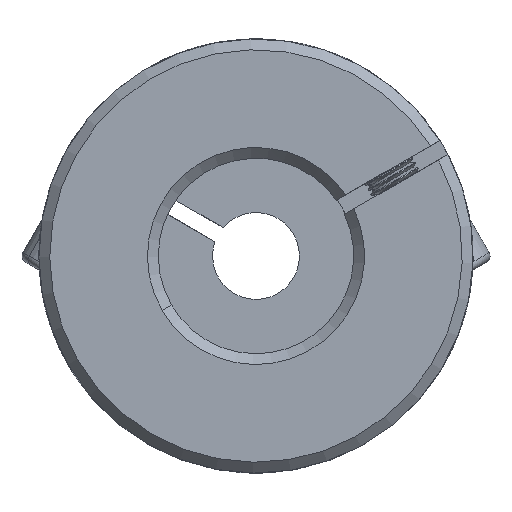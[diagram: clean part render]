
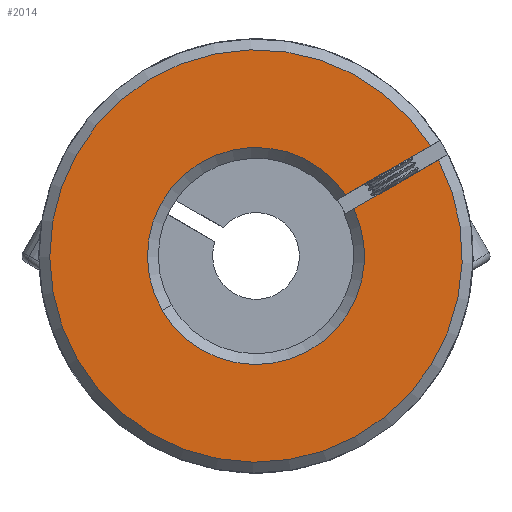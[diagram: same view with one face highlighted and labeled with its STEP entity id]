
A CAD part, front view. The second image highlights one B-rep face of the part: STEP entity #2014.
In plain terms, the highlighted planar face has unit normal (0, -1, 0).
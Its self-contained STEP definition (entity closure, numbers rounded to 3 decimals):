
#126 = LINE ( 'NONE', #3706, #9904 ) ;
#132 = EDGE_CURVE ( 'NONE', #3824, #812, #11745, .T. ) ;
#357 = DIRECTION ( 'NONE',  ( 0.866, 0., 0.5 ) ) ;
#594 = EDGE_CURVE ( 'NONE', #9787, #812, #6750, .T. ) ;
#812 = VERTEX_POINT ( 'NONE', #3605 ) ;
#851 = EDGE_CURVE ( 'NONE', #9290, #9787, #2623, .T. ) ;
#1074 = CARTESIAN_POINT ( 'NONE',  ( 14.616, -31.239, 50.147 ) ) ;
#1483 = CARTESIAN_POINT ( 'NONE',  ( -1.447, -31.239, 40. ) ) ;
#2014 = ADVANCED_FACE ( 'NONE', ( #13260 ), #4442, .F. ) ;
#2458 = DIRECTION ( 'NONE',  ( 0., 1., 0. ) ) ;
#2623 = CIRCLE ( 'NONE', #3404, 10. ) ;
#2816 = DIRECTION ( 'NONE',  ( -0.866, 0., -0.5 ) ) ;
#2937 = DIRECTION ( 'NONE',  ( 0.5, 0., -0.866 ) ) ;
#3049 = CARTESIAN_POINT ( 'NONE',  ( -1.447, -31.239, 40. ) ) ;
#3061 = ORIENTED_EDGE ( 'NONE', *, *, #851, .T. ) ;
#3404 = AXIS2_PLACEMENT_3D ( 'NONE', #1483, #2458, #10011 ) ;
#3605 = CARTESIAN_POINT ( 'NONE',  ( 6.812, -31.239, 45.638 ) ) ;
#3706 = CARTESIAN_POINT ( 'NONE',  ( 6.694, -31.239, 43.837 ) ) ;
#3824 = VERTEX_POINT ( 'NONE', #1074 ) ;
#4442 = PLANE ( 'NONE',  #10579 ) ;
#5228 = EDGE_CURVE ( 'NONE', #3824, #5613, #12678, .T. ) ;
#5613 = VERTEX_POINT ( 'NONE', #11343 ) ;
#5905 = EDGE_LOOP ( 'NONE', ( #13227, #3061, #7619, #11164, #7416 ) ) ;
#6750 = CIRCLE ( 'NONE', #8122, 10. ) ;
#7106 = EDGE_CURVE ( 'NONE', #9290, #5613, #126, .T. ) ;
#7179 = AXIS2_PLACEMENT_3D ( 'NONE', #7372, #9443, #2937 ) ;
#7372 = CARTESIAN_POINT ( 'NONE',  ( -1.447, -31.239, 40. ) ) ;
#7416 = ORIENTED_EDGE ( 'NONE', *, *, #5228, .T. ) ;
#7619 = ORIENTED_EDGE ( 'NONE', *, *, #594, .T. ) ;
#8122 = AXIS2_PLACEMENT_3D ( 'NONE', #3049, #13810, #11688 ) ;
#9282 = CARTESIAN_POINT ( 'NONE',  ( 7.562, -31.239, 44.339 ) ) ;
#9290 = VERTEX_POINT ( 'NONE', #9282 ) ;
#9443 = DIRECTION ( 'NONE',  ( 0., -1., 0. ) ) ;
#9787 = VERTEX_POINT ( 'NONE', #12814 ) ;
#9904 = VECTOR ( 'NONE', #357, 1000. ) ;
#10011 = DIRECTION ( 'NONE',  ( 0.5, 0., -0.866 ) ) ;
#10571 = VECTOR ( 'NONE', #2816, 1000. ) ;
#10579 = AXIS2_PLACEMENT_3D ( 'NONE', #12009, #10657, #13049 ) ;
#10657 = DIRECTION ( 'NONE',  ( 0., 1., 0. ) ) ;
#11164 = ORIENTED_EDGE ( 'NONE', *, *, #132, .F. ) ;
#11343 = CARTESIAN_POINT ( 'NONE',  ( 15.367, -31.239, 48.848 ) ) ;
#11688 = DIRECTION ( 'NONE',  ( 0.5, 0., -0.866 ) ) ;
#11745 = LINE ( 'NONE', #13480, #10571 ) ;
#12009 = CARTESIAN_POINT ( 'NONE',  ( 52.98, -31.239, 45.743 ) ) ;
#12678 = CIRCLE ( 'NONE', #7179, 19. ) ;
#12814 = CARTESIAN_POINT ( 'NONE',  ( -10.106, -31.239, 34.997 ) ) ;
#13049 = DIRECTION ( 'NONE',  ( 0.5, 0., -0.866 ) ) ;
#13227 = ORIENTED_EDGE ( 'NONE', *, *, #7106, .F. ) ;
#13260 = FACE_OUTER_BOUND ( 'NONE', #5905, .T. ) ;
#13480 = CARTESIAN_POINT ( 'NONE',  ( 5.943, -31.239, 45.136 ) ) ;
#13810 = DIRECTION ( 'NONE',  ( 0., 1., 0. ) ) ;
